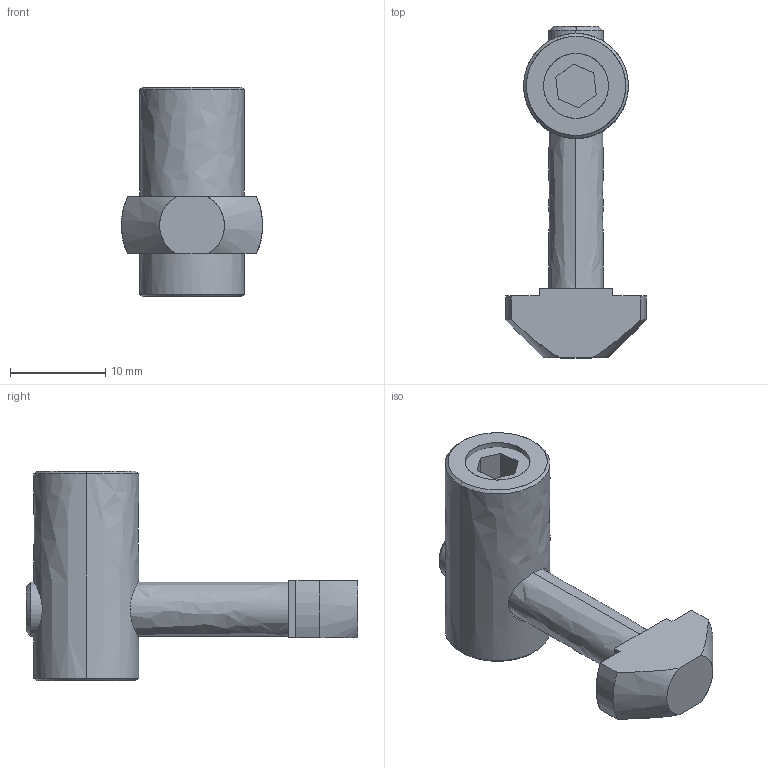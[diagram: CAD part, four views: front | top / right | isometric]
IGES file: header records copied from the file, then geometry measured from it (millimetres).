
Start section: SolidWorks IGES file using analytic representation for surfaces
Global section: file name: C:\Documents and Settings\ImaruA\My Documents\検討物件\2012WEB DATA\SFK-3K2\SFK-3K2.IGS; native system: SolidWorks 2006 by SolidWorks Corporation; preprocessor: SolidWorks 2006 by SolidWorks Corporation; author: ImaruA; date: 121120.161038; units: millimetre
Bounding box: 14.8 x 34.8 x 22 mm (x, y, z)
Surface area: 2584.3 mm2 (no closed solid volume)
Topology: 0 solids, 0 shells, 50 faces, 836 edges, 832 vertices
Faces by surface type: revolution 30, bspline 20
